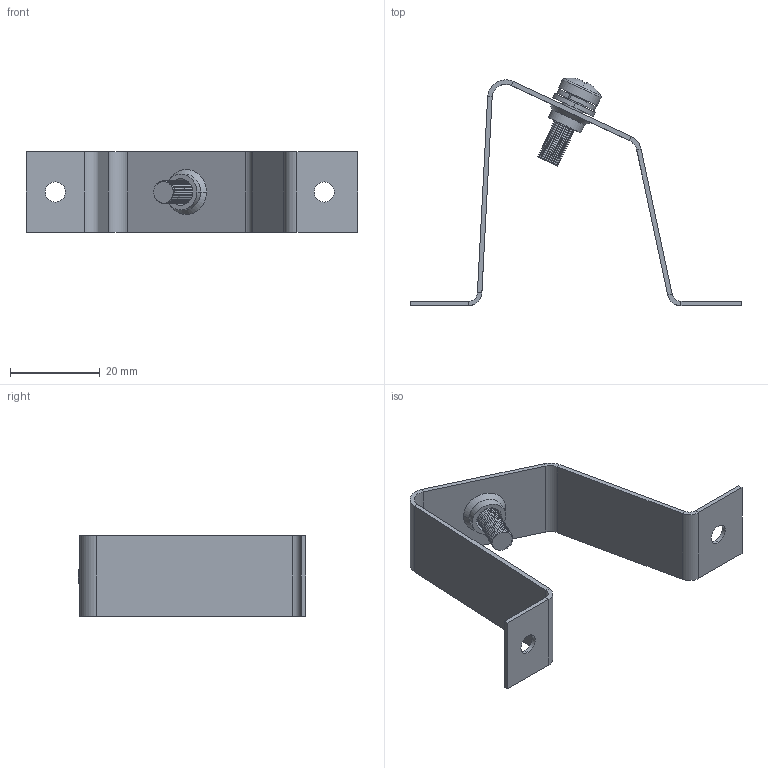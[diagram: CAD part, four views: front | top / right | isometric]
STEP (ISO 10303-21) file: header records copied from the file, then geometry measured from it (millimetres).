
FILE_DESCRIPTION (( 'STEP AP214' ), '1' );
FILE_NAME ('3D 斁麧錪 MTEC-HD75.STEP', '2020-09-19T12:09:55', ( '' ), ( '' ), 'SwSTEP 2.0', 'SolidWorks 2015', '' );
FILE_SCHEMA (( 'AUTOMOTIVE_DESIGN' ));
Length unit declared in the file: millimetre
Products named in the file (5): ﾘ琺矜 5 DIN 125_丐ｩ｡ 5 DIN 125; Øàéáà ïðóæèííàÿ 5 DIN 127_˜ ©¡  ¯àã¦¨­­ ï 5 DIN 127; 3D 斁麧錪 MTEC-HD75; ﾊ煇鳫; Âèíò Ì5õ16 DIN 7985_‚¨­â Œ5å16 DIN 7985
Assembly tree (4 placements, depth 2):
  3D 斁麧錪 MTEC-HD75
    ﾊ煇鳫
    Âèíò Ì5õ16 DIN 7985_‚¨­â Œ5å16 DIN 7985
    Øàéáà ïðóæèííàÿ 5 DIN 127_˜ ©¡  ¯àã¦¨­­ ï 5 DIN 127
    ﾘ琺矜 5 DIN 125_丐ｩ｡ 5 DIN 125
Bounding box: 74 x 50.79 x 18 mm (x, y, z)
Volume: 3308.3 mm3; surface area: 6612.9 mm2
Topology: 4 solids, 4 shells, 144 faces, 359 edges, 223 vertices
Faces by surface type: cylinder 69, plane 57, cone 8, torus 6, sphere 2, bspline 2
Entity records: 6219 total; most frequent: CARTESIAN_POINT 2825, ORIENTED_EDGE 714, DIRECTION 647, EDGE_CURVE 357, AXIS2_PLACEMENT_3D 245, VERTEX_POINT 223, VECTOR 157, LINE 157
